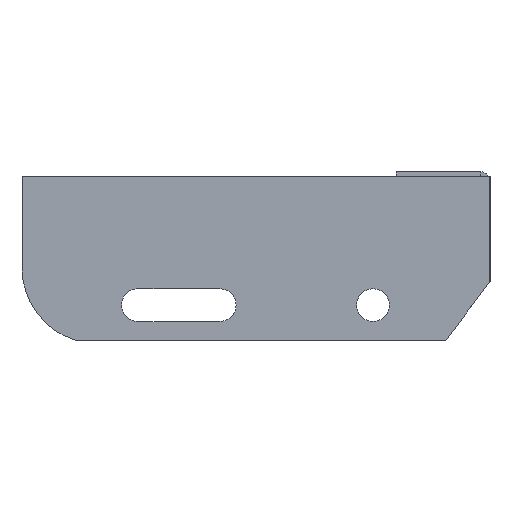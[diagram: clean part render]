
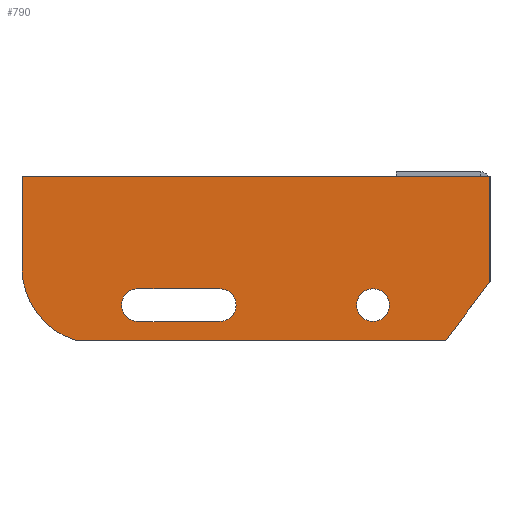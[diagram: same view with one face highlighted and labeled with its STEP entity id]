
A CAD part, left-side view. The second image highlights one B-rep face of the part: STEP entity #790.
In plain terms, the highlighted planar face has unit normal (-1, 0, 0) as drawn and (0, 0, 1) by its records, which use the part's own axes.
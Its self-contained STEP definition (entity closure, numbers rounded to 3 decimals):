
#3 = AXIS2_PLACEMENT_3D ( 'NONE', #1106, #194, #1728 ) ;
#42 = EDGE_CURVE ( 'NONE', #1764, #1238, #756, .T. ) ;
#50 = VERTEX_POINT ( 'NONE', #331 ) ;
#55 = DIRECTION ( 'NONE',  ( 0.602, 0.799, 0. ) ) ;
#67 = AXIS2_PLACEMENT_3D ( 'NONE', #695, #1936, #680 ) ;
#96 = CARTESIAN_POINT ( 'NONE',  ( -43., -55., 3. ) ) ;
#99 = VERTEX_POINT ( 'NONE', #627 ) ;
#121 = LINE ( 'NONE', #1337, #138 ) ;
#133 = DIRECTION ( 'NONE',  ( 0., 0., 1. ) ) ;
#138 = VECTOR ( 'NONE', #2002, 1000. ) ;
#170 = CARTESIAN_POINT ( 'NONE',  ( -200., -39., 3. ) ) ;
#176 = LINE ( 'NONE', #1099, #1605 ) ;
#191 = LINE ( 'NONE', #813, #1248 ) ;
#194 = DIRECTION ( 'NONE',  ( 0., 0., 1. ) ) ;
#200 = CIRCLE ( 'NONE', #1117, 7. ) ;
#219 = CARTESIAN_POINT ( 'NONE',  ( -150.5, -48., 3. ) ) ;
#242 = VERTEX_POINT ( 'NONE', #1431 ) ;
#249 = ORIENTED_EDGE ( 'NONE', *, *, #1971, .T. ) ;
#266 = VERTEX_POINT ( 'NONE', #1630 ) ;
#271 = CARTESIAN_POINT ( 'NONE',  ( -18.839, -70., 3. ) ) ;
#272 = EDGE_CURVE ( 'NONE', #353, #1200, #1602, .T. ) ;
#308 = EDGE_CURVE ( 'NONE', #1825, #1301, #1204, .T. ) ;
#331 = CARTESIAN_POINT ( 'NONE',  ( -200., 0., 3. ) ) ;
#346 = CARTESIAN_POINT ( 'NONE',  ( 0., -45., 3. ) ) ;
#350 = FACE_OUTER_BOUND ( 'NONE', #729, .T. ) ;
#353 = VERTEX_POINT ( 'NONE', #219 ) ;
#367 = LINE ( 'NONE', #346, #628 ) ;
#374 = VERTEX_POINT ( 'NONE', #96 ) ;
#438 = ORIENTED_EDGE ( 'NONE', *, *, #1508, .T. ) ;
#481 = ORIENTED_EDGE ( 'NONE', *, *, #42, .T. ) ;
#482 = FACE_BOUND ( 'NONE', #1338, .T. ) ;
#491 = DIRECTION ( 'NONE',  ( 0., -1., 0. ) ) ;
#539 = VERTEX_POINT ( 'NONE', #271 ) ;
#567 = DIRECTION ( 'NONE',  ( 0., 0., 1. ) ) ;
#598 = CARTESIAN_POINT ( 'NONE',  ( -157.5, -55., 3. ) ) ;
#615 = FACE_BOUND ( 'NONE', #926, .T. ) ;
#627 = CARTESIAN_POINT ( 'NONE',  ( -57., -55., 3. ) ) ;
#628 = VECTOR ( 'NONE', #55, 1000. ) ;
#642 = PLANE ( 'NONE',  #3 ) ;
#655 = ORIENTED_EDGE ( 'NONE', *, *, #1365, .T. ) ;
#680 = DIRECTION ( 'NONE',  ( 1., 0., 0. ) ) ;
#685 = VECTOR ( 'NONE', #1626, 1000. ) ;
#695 = CARTESIAN_POINT ( 'NONE',  ( -50., -55., 3. ) ) ;
#708 = CARTESIAN_POINT ( 'NONE',  ( 0., 0., 3. ) ) ;
#710 = CARTESIAN_POINT ( 'NONE',  ( -50., -55., 3. ) ) ;
#726 = EDGE_CURVE ( 'NONE', #50, #1825, #176, .T. ) ;
#729 = EDGE_LOOP ( 'NONE', ( #481, #438, #1964, #1360, #655, #249 ) ) ;
#747 = DIRECTION ( 'NONE',  ( 1., 0., 0. ) ) ;
#756 = LINE ( 'NONE', #1079, #1540 ) ;
#790 = ADVANCED_FACE ( 'NONE', ( #350, #615, #482 ), #642, .T. ) ;
#813 = CARTESIAN_POINT ( 'NONE',  ( -18.839, -70., 3. ) ) ;
#845 = EDGE_CURVE ( 'NONE', #374, #99, #1538, .T. ) ;
#854 = CIRCLE ( 'NONE', #1152, 7. ) ;
#856 = AXIS2_PLACEMENT_3D ( 'NONE', #927, #1271, #1714 ) ;
#864 = ORIENTED_EDGE ( 'NONE', *, *, #1189, .F. ) ;
#867 = DIRECTION ( 'NONE',  ( 1., 0., 0. ) ) ;
#916 = DIRECTION ( 'NONE',  ( 1., 0., 0. ) ) ;
#926 = EDGE_LOOP ( 'NONE', ( #1098, #1796 ) ) ;
#927 = CARTESIAN_POINT ( 'NONE',  ( -150.5, -55., 3. ) ) ;
#1001 = CARTESIAN_POINT ( 'NONE',  ( -115.5, -62., 3. ) ) ;
#1021 = EDGE_CURVE ( 'NONE', #99, #374, #854, .T. ) ;
#1028 = CARTESIAN_POINT ( 'NONE',  ( -150.5, -55., 3. ) ) ;
#1079 = CARTESIAN_POINT ( 'NONE',  ( 0., 0., 3. ) ) ;
#1085 = CIRCLE ( 'NONE', #856, 7. ) ;
#1098 = ORIENTED_EDGE ( 'NONE', *, *, #1021, .F. ) ;
#1099 = CARTESIAN_POINT ( 'NONE',  ( -200., 0., 3. ) ) ;
#1101 = DIRECTION ( 'NONE',  ( 0., 1., 0. ) ) ;
#1105 = ORIENTED_EDGE ( 'NONE', *, *, #1233, .F. ) ;
#1106 = CARTESIAN_POINT ( 'NONE',  ( -167.5, -39., 3. ) ) ;
#1114 = CARTESIAN_POINT ( 'NONE',  ( 0., 0., 3. ) ) ;
#1117 = AXIS2_PLACEMENT_3D ( 'NONE', #1897, #1420, #916 ) ;
#1152 = AXIS2_PLACEMENT_3D ( 'NONE', #710, #133, #747 ) ;
#1189 = EDGE_CURVE ( 'NONE', #1200, #242, #1085, .T. ) ;
#1199 = LINE ( 'NONE', #708, #1215 ) ;
#1200 = VERTEX_POINT ( 'NONE', #598 ) ;
#1204 = CIRCLE ( 'NONE', #1458, 32.5 ) ;
#1215 = VECTOR ( 'NONE', #1528, 1000. ) ;
#1233 = EDGE_CURVE ( 'NONE', #1438, #266, #200, .T. ) ;
#1238 = VERTEX_POINT ( 'NONE', #1114 ) ;
#1248 = VECTOR ( 'NONE', #1765, 1000. ) ;
#1256 = CARTESIAN_POINT ( 'NONE',  ( -177.26, -70., 3. ) ) ;
#1271 = DIRECTION ( 'NONE',  ( 0., 0., 1. ) ) ;
#1301 = VERTEX_POINT ( 'NONE', #1256 ) ;
#1337 = CARTESIAN_POINT ( 'NONE',  ( -150.5, -48., 3. ) ) ;
#1338 = EDGE_LOOP ( 'NONE', ( #1428, #864, #1644, #1697, #1105 ) ) ;
#1341 = DIRECTION ( 'NONE',  ( 0., 0., 1. ) ) ;
#1360 = ORIENTED_EDGE ( 'NONE', *, *, #308, .T. ) ;
#1365 = EDGE_CURVE ( 'NONE', #1301, #539, #191, .T. ) ;
#1420 = DIRECTION ( 'NONE',  ( 0., 0., 1. ) ) ;
#1425 = CARTESIAN_POINT ( 'NONE',  ( 0., -45., 3. ) ) ;
#1428 = ORIENTED_EDGE ( 'NONE', *, *, #1441, .F. ) ;
#1431 = CARTESIAN_POINT ( 'NONE',  ( -150.5, -62., 3. ) ) ;
#1438 = VERTEX_POINT ( 'NONE', #1001 ) ;
#1441 = EDGE_CURVE ( 'NONE', #242, #1438, #1448, .T. ) ;
#1448 = LINE ( 'NONE', #1789, #685 ) ;
#1458 = AXIS2_PLACEMENT_3D ( 'NONE', #1489, #567, #867 ) ;
#1489 = CARTESIAN_POINT ( 'NONE',  ( -167.5, -39., 3. ) ) ;
#1508 = EDGE_CURVE ( 'NONE', #1238, #50, #1199, .T. ) ;
#1518 = EDGE_CURVE ( 'NONE', #266, #353, #121, .T. ) ;
#1528 = DIRECTION ( 'NONE',  ( -1., 0., 0. ) ) ;
#1538 = CIRCLE ( 'NONE', #67, 7. ) ;
#1540 = VECTOR ( 'NONE', #1101, 1000. ) ;
#1602 = CIRCLE ( 'NONE', #1723, 7. ) ;
#1605 = VECTOR ( 'NONE', #491, 1000. ) ;
#1626 = DIRECTION ( 'NONE',  ( 1., 0., 0. ) ) ;
#1630 = CARTESIAN_POINT ( 'NONE',  ( -115.5, -48., 3. ) ) ;
#1642 = DIRECTION ( 'NONE',  ( 1., 0., 0. ) ) ;
#1644 = ORIENTED_EDGE ( 'NONE', *, *, #272, .F. ) ;
#1697 = ORIENTED_EDGE ( 'NONE', *, *, #1518, .F. ) ;
#1714 = DIRECTION ( 'NONE',  ( 1., 0., 0. ) ) ;
#1723 = AXIS2_PLACEMENT_3D ( 'NONE', #1028, #1341, #1642 ) ;
#1728 = DIRECTION ( 'NONE',  ( 1., 0., 0. ) ) ;
#1764 = VERTEX_POINT ( 'NONE', #1425 ) ;
#1765 = DIRECTION ( 'NONE',  ( 1., 0., 0. ) ) ;
#1789 = CARTESIAN_POINT ( 'NONE',  ( -150.5, -62., 3. ) ) ;
#1796 = ORIENTED_EDGE ( 'NONE', *, *, #845, .F. ) ;
#1825 = VERTEX_POINT ( 'NONE', #170 ) ;
#1897 = CARTESIAN_POINT ( 'NONE',  ( -115.5, -55., 3. ) ) ;
#1936 = DIRECTION ( 'NONE',  ( 0., 0., 1. ) ) ;
#1964 = ORIENTED_EDGE ( 'NONE', *, *, #726, .T. ) ;
#1971 = EDGE_CURVE ( 'NONE', #539, #1764, #367, .T. ) ;
#2002 = DIRECTION ( 'NONE',  ( -1., 0., 0. ) ) ;
